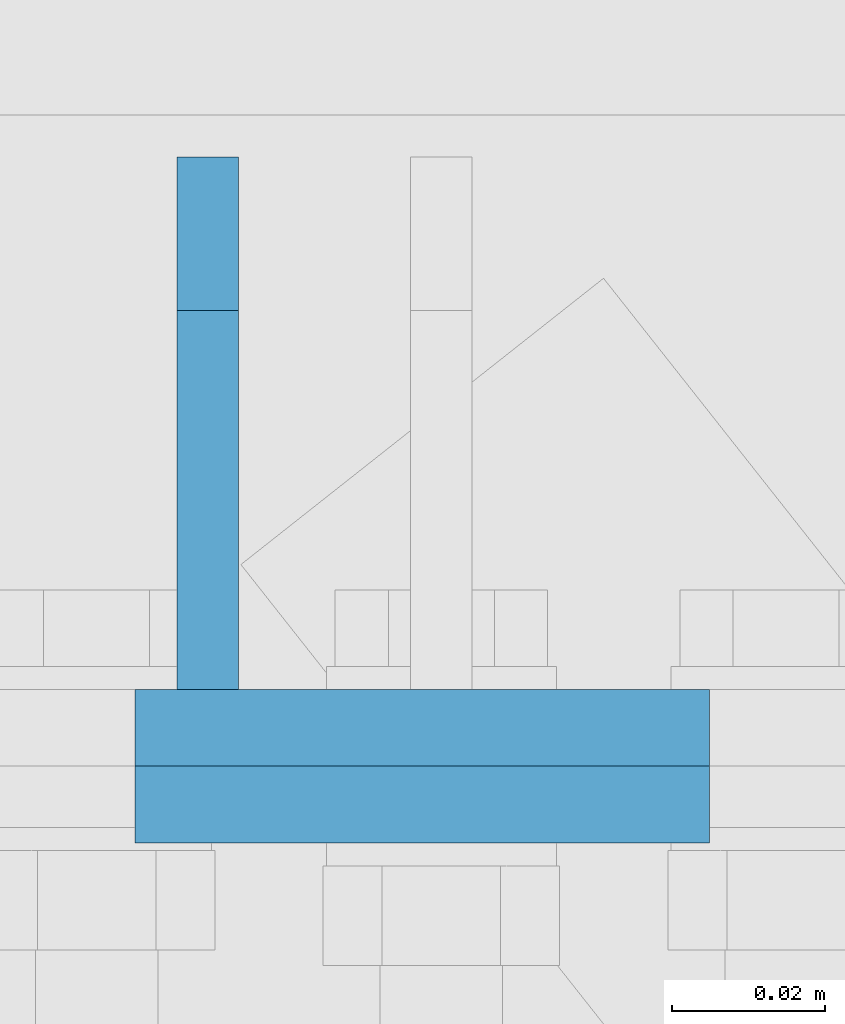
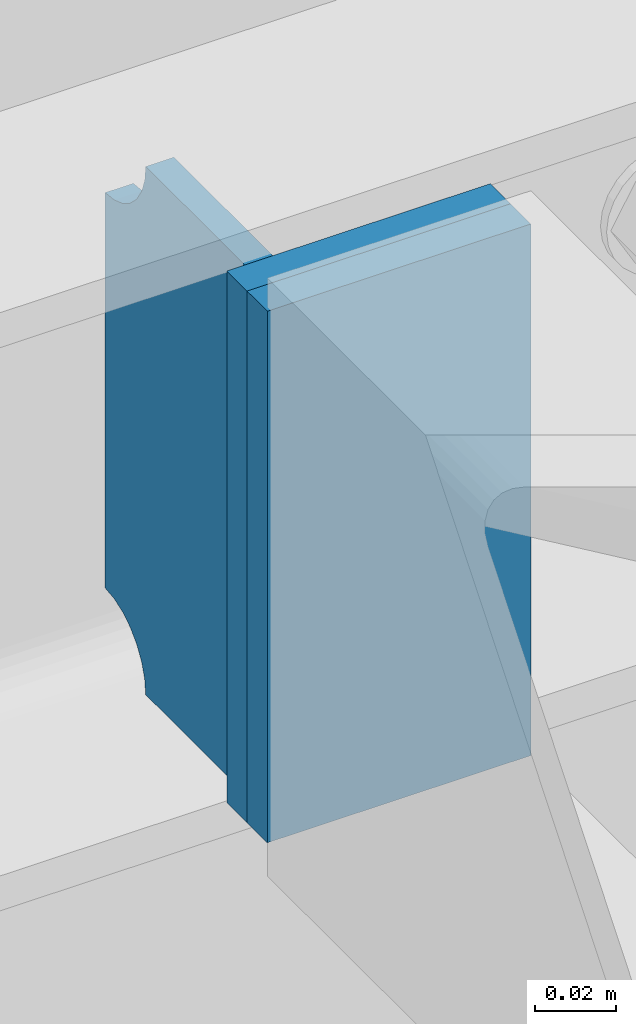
# One storey, part 8 of 23: 3 plates, 1 element without a shape of its own.
"""IFC2X3 building model written with IfcOpenShell, lengths in millimetres."""

from ifc_helpers import new_model, si_unit, frame, frame_2d, origin_with_axes, place, context, subcontext, project, spatial, polyline, circle_curve, parameter, trimmed, segment, composite_curve, outline, extrude, material, type_object, element, aggregate, save


model = new_model("IFC2X3")

# Units and contexts
model_context = context("Model", 3, precision=1e-05, world=origin_with_axes())
body_context = subcontext(model_context, "Body", "Model", "MODEL_VIEW")
ifc_project = project(units=[si_unit("LENGTHUNIT", "METRE", prefix="MILLI"), si_unit("AREAUNIT", "SQUARE_METRE"), si_unit("VOLUMEUNIT", "CUBIC_METRE"), si_unit("MASSUNIT", "GRAM", prefix="KILO"), si_unit("TIMEUNIT", "SECOND"), si_unit("PLANEANGLEUNIT", "RADIAN"), si_unit("SOLIDANGLEUNIT", "STERADIAN"), si_unit("THERMODYNAMICTEMPERATUREUNIT", "DEGREE_CELSIUS"), si_unit("LUMINOUSINTENSITYUNIT", "LUMEN")], contexts=[model_context])

# Site, building, storey
site_placement = place(None, origin_with_axes())
site = spatial("IfcSite", under=ifc_project, at=site_placement, Name="Undefined", CompositionType="ELEMENT")
building_placement = place(site_placement, origin_with_axes())
building = spatial("IfcBuilding", under=site, at=building_placement, Name="Undefined", CompositionType="ELEMENT")
storey_placement = place(building_placement, origin_with_axes())
storey = spatial("IfcBuildingStorey", under=building, at=storey_placement, Name="Undefined", CompositionType="ELEMENT", Elevation=0.0)

# Assembly, plates
assembly_placement = place(storey_placement, origin_with_axes())
assembly = element("IfcElementAssembly", 1, at=assembly_placement, inside=storey, Name="CONCRETE_SLAB", AssemblyPlace="NOTDEFINED", PredefinedType="REINFORCEMENT_UNIT")
ifc_material = material(Name="STEEL/S235JR")
plate_type_1 = type_object("IfcPlateType", Name="PL8*70", PredefinedType="NOTDEFINED")
plate_1_placement = place(assembly_placement, frame((19.5, 3785.0, 3289.5), z_axis=(-1.0, 0.0, 0.0), x_axis=(0.0, 1.0, 0.0)))
plate_1 = element("IfcPlate", 2, at=plate_1_placement, type_object=plate_type_1, material=ifc_material, Name="PLECH", ObjectType="PL8*70", context=body_context, shape_type="SweptSolid", body=[
    extrude(outline(composite_curve([segment(polyline([(0.0, 0.0), (49.5, 0.0)]), True, "CONTINUOUS"), segment(trimmed(circle_curve(frame_2d((69.5, 0.0), x_axis=(-1.0, 0.0)), 20.0), [parameter(0.0)], [parameter(4.71238898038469)], False, "PARAMETER"), True, "CONTINUOUS"), segment(polyline([(69.5, 20.0), (69.5, 139.0)]), True, "CONTINUOUS"), segment(trimmed(circle_curve(frame_2d((69.5, 159.0), x_axis=(0.0, -1.0)), 20.0), [parameter(0.0)], [parameter(4.71238898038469)], False, "PARAMETER"), True, "CONTINUOUS"), segment(polyline([(49.5, 159.0), (0.0, 159.0), (0.0, 0.0)]), True, "DISCONTINUOUS")], self_intersect=False)), frame((0.0, 0.0, -4.0), z_axis=(0.0, 0.0, 1.0), x_axis=(1.0, 0.0, 0.0)), (0.0, 0.0, 1.0), 8.0),
])
plate_type_2 = type_object("IfcPlateType", Name="PL10*75", PredefinedType="NOTDEFINED")
plate_2_placement = place(assembly_placement, frame((85.0, 3770.0, 3130.0), z_axis=(0.0, -1.0, 0.0), x_axis=(0.0, 0.0, 1.0)))
plate_2 = element("IfcPlate", 3, at=plate_2_placement, type_object=plate_type_2, material=ifc_material, Name="PLECH", ObjectType="PL10*75", context=body_context, shape_type="SweptSolid", body=[
    extrude(outline(polyline([(0.0, 0.0), (160.0, 0.0), (160.0, 75.0), (0.0, 75.0), (0.0, 0.0)])), frame((0.0, 0.0, -5.0), z_axis=(0.0, 0.0, 1.0), x_axis=(1.0, 0.0, 0.0)), (0.0, 0.0, 1.0), 10.0),
])
plate_3_placement = place(assembly_placement, frame((85.0, 3780.0, 3130.0), z_axis=(0.0, -1.0, 0.0), x_axis=(0.0, 0.0, 1.0)))
plate_3 = element("IfcPlate", 4, at=plate_3_placement, type_object=plate_type_2, material=ifc_material, Name="PLECH", ObjectType="PL10*75", context=body_context, shape_type="SweptSolid", body=[
    extrude(outline(polyline([(0.0, 0.0), (160.0, 0.0), (160.0, 75.0), (0.0, 75.0), (0.0, 0.0)])), frame((0.0, 0.0, -5.0), z_axis=(0.0, 0.0, 1.0), x_axis=(1.0, 0.0, 0.0)), (0.0, 0.0, 1.0), 10.0),
])
aggregate(assembly, [plate_1, plate_2, plate_3])

save(model, "model.ifc")
